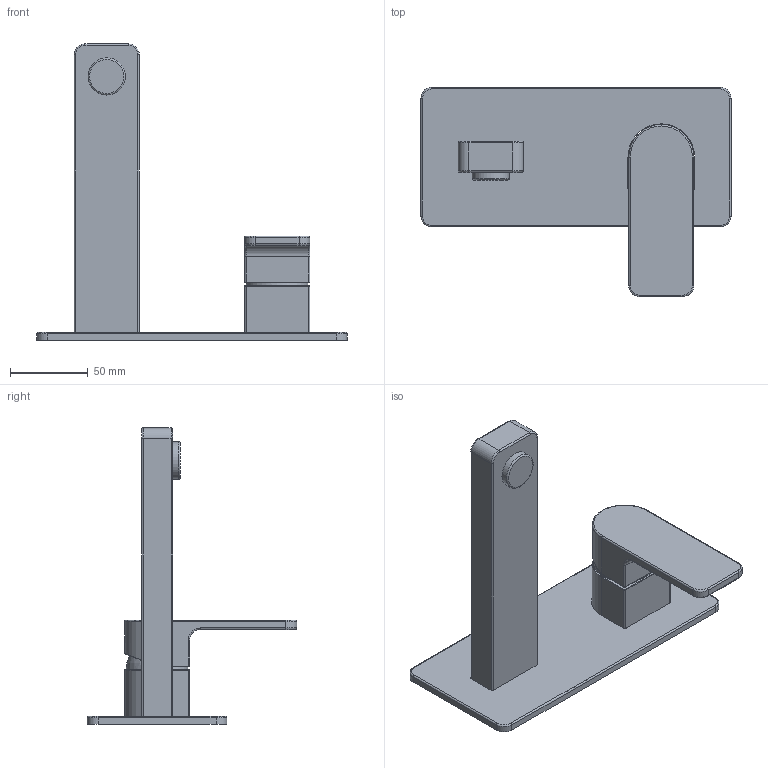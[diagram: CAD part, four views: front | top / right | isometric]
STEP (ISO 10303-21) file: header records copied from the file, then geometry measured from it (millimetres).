
FILE_DESCRIPTION(/* description */ (''),/* implementation_level */ '2;1');
FILE_NAME(/* name */ 'c:\worker\convert-fusion-oct-2018\tmp\job-1\13\output\files\98fa551e-61f3-414d-8536-6b57b0e9dcac\7499b88b-3b7e-4f15-aed2-8d07e4c622a0.stp',/* time_stamp */ '2018-10-17T11:34:49+00:00',/* author */ (''),/* organization */ (''),/* preprocessor_version */ 'ST-DEVELOPER v17.2',/* originating_system */ 'Autodesk Translation Framework v7.6.0.251',/* authorisation */ '');
FILE_SCHEMA (('AUTOMOTIVE_DESIGN { 1 0 10303 214 3 1 1 }'));
Length unit declared in the file: millimetre
Products named in the file (1): !BA7815
Bounding box: 200 x 135 x 191 mm (x, y, z)
Volume: 310532.5 mm3; surface area: 88771.6 mm2
Topology: 6 solids, 6 shells, 106 faces, 239 edges, 145 vertices
Faces by surface type: cylinder 47, plane 36, torus 21, sphere 1, bspline 1
Full cylindrical faces by diameter (mm): 24 x1
Entity records: 3031 total; most frequent: DIRECTION 569, CARTESIAN_POINT 539, ORIENTED_EDGE 476, EDGE_CURVE 238, AXIS2_PLACEMENT_3D 225, VERTEX_POINT 145, LINE 119, VECTOR 119
